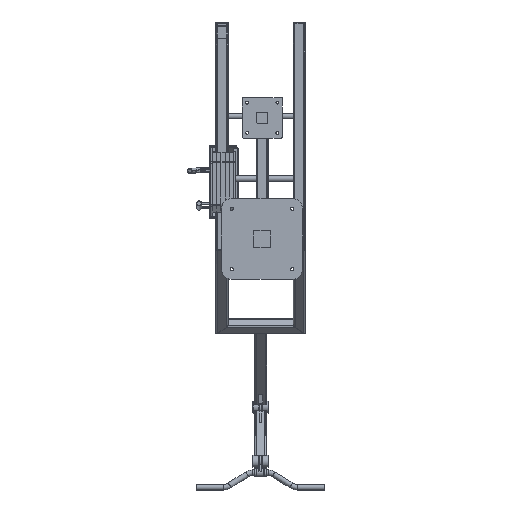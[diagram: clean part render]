
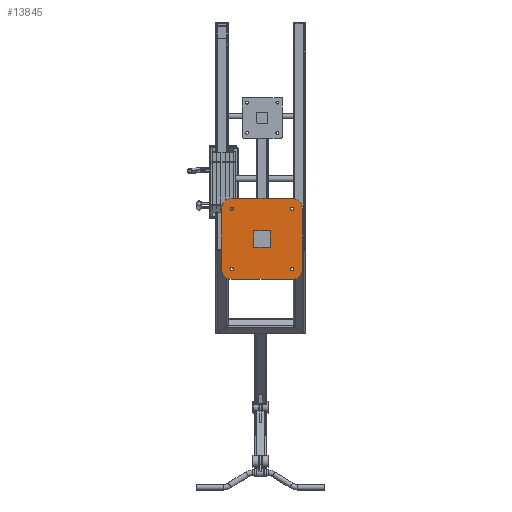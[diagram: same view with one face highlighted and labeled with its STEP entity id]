
A CAD part, front view. The second image highlights one B-rep face of the part: STEP entity #13845.
In plain terms, the highlighted planar face has unit normal (0, -1, 0).
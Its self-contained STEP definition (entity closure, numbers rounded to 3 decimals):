
#171=FACE_BOUND('',#4982,.T.);
#172=FACE_BOUND('',#4983,.T.);
#173=FACE_BOUND('',#4984,.T.);
#174=FACE_BOUND('',#4985,.T.);
#175=FACE_BOUND('',#4986,.T.);
#601=PLANE('',#15073);
#1432=LINE('',#22435,#2701);
#1436=LINE('',#22442,#2705);
#1439=LINE('',#22448,#2708);
#1441=LINE('',#22453,#2710);
#1444=LINE('',#22467,#2713);
#1445=LINE('',#22469,#2714);
#1446=LINE('',#22471,#2715);
#1447=LINE('',#22472,#2716);
#2701=VECTOR('',#17897,300.);
#2705=VECTOR('',#17903,300.);
#2708=VECTOR('',#17908,300.);
#2710=VECTOR('',#17912,300.);
#2713=VECTOR('',#17929,80.);
#2714=VECTOR('',#17930,80.);
#2715=VECTOR('',#17931,80.);
#2716=VECTOR('',#17932,80.);
#4092=FACE_OUTER_BOUND('',#4981,.T.);
#4981=EDGE_LOOP('',(#11303,#11304,#11305,#11306,#11307,#11308,#11309,#11310));
#4982=EDGE_LOOP('',(#11311));
#4983=EDGE_LOOP('',(#11312));
#4984=EDGE_LOOP('',(#11313,#11314,#11315,#11316));
#4985=EDGE_LOOP('',(#11317));
#4986=EDGE_LOOP('',(#11318));
#5752=CIRCLE('',#15074,50.);
#5753=CIRCLE('',#15075,50.);
#5754=CIRCLE('',#15076,50.);
#5755=CIRCLE('',#15077,50.);
#5756=CIRCLE('',#15078,8.);
#5757=CIRCLE('',#15079,8.);
#5758=CIRCLE('',#15080,8.);
#5759=CIRCLE('',#15081,8.);
#6741=VERTEX_POINT('',#22433);
#6742=VERTEX_POINT('',#22434);
#6743=VERTEX_POINT('',#22439);
#6744=VERTEX_POINT('',#22441);
#6745=VERTEX_POINT('',#22445);
#6746=VERTEX_POINT('',#22447);
#6747=VERTEX_POINT('',#22451);
#6748=VERTEX_POINT('',#22452);
#6749=VERTEX_POINT('',#22461);
#6750=VERTEX_POINT('',#22463);
#6751=VERTEX_POINT('',#22465);
#6752=VERTEX_POINT('',#22466);
#6753=VERTEX_POINT('',#22468);
#6754=VERTEX_POINT('',#22470);
#6755=VERTEX_POINT('',#22473);
#6756=VERTEX_POINT('',#22475);
#8355=EDGE_CURVE('',#6741,#6742,#1432,.T.);
#8359=EDGE_CURVE('',#6743,#6744,#1436,.T.);
#8362=EDGE_CURVE('',#6746,#6745,#1439,.T.);
#8364=EDGE_CURVE('',#6747,#6748,#1441,.T.);
#8367=EDGE_CURVE('',#6742,#6748,#5752,.T.);
#8368=EDGE_CURVE('',#6747,#6744,#5753,.T.);
#8369=EDGE_CURVE('',#6743,#6746,#5754,.T.);
#8370=EDGE_CURVE('',#6745,#6741,#5755,.T.);
#8371=EDGE_CURVE('',#6749,#6749,#5756,.T.);
#8372=EDGE_CURVE('',#6750,#6750,#5757,.T.);
#8373=EDGE_CURVE('',#6751,#6752,#1444,.T.);
#8374=EDGE_CURVE('',#6753,#6751,#1445,.T.);
#8375=EDGE_CURVE('',#6754,#6753,#1446,.T.);
#8376=EDGE_CURVE('',#6752,#6754,#1447,.T.);
#8377=EDGE_CURVE('',#6755,#6755,#5758,.T.);
#8378=EDGE_CURVE('',#6756,#6756,#5759,.T.);
#11303=ORIENTED_EDGE('',*,*,#8355,.T.);
#11304=ORIENTED_EDGE('',*,*,#8367,.T.);
#11305=ORIENTED_EDGE('',*,*,#8364,.F.);
#11306=ORIENTED_EDGE('',*,*,#8368,.T.);
#11307=ORIENTED_EDGE('',*,*,#8359,.F.);
#11308=ORIENTED_EDGE('',*,*,#8369,.T.);
#11309=ORIENTED_EDGE('',*,*,#8362,.T.);
#11310=ORIENTED_EDGE('',*,*,#8370,.T.);
#11311=ORIENTED_EDGE('',*,*,#8371,.F.);
#11312=ORIENTED_EDGE('',*,*,#8372,.F.);
#11313=ORIENTED_EDGE('',*,*,#8373,.F.);
#11314=ORIENTED_EDGE('',*,*,#8374,.F.);
#11315=ORIENTED_EDGE('',*,*,#8375,.F.);
#11316=ORIENTED_EDGE('',*,*,#8376,.F.);
#11317=ORIENTED_EDGE('',*,*,#8377,.F.);
#11318=ORIENTED_EDGE('',*,*,#8378,.F.);
#13845=ADVANCED_FACE('',(#4092,#171,#172,#173,#174,#175),#601,.T.);
#15073=AXIS2_PLACEMENT_3D('',#22456,#17915,#17916);
#15074=AXIS2_PLACEMENT_3D('',#22457,#17917,#17918);
#15075=AXIS2_PLACEMENT_3D('',#22458,#17919,#17920);
#15076=AXIS2_PLACEMENT_3D('',#22459,#17921,#17922);
#15077=AXIS2_PLACEMENT_3D('',#22460,#17923,#17924);
#15078=AXIS2_PLACEMENT_3D('',#22462,#17925,#17926);
#15079=AXIS2_PLACEMENT_3D('',#22464,#17927,#17928);
#15080=AXIS2_PLACEMENT_3D('',#22474,#17933,#17934);
#15081=AXIS2_PLACEMENT_3D('',#22476,#17935,#17936);
#17897=DIRECTION('',(0.,0.,1.));
#17903=DIRECTION('',(0.,0.,1.));
#17908=DIRECTION('',(1.,0.,0.));
#17912=DIRECTION('',(1.,0.,0.));
#17915=DIRECTION('center_axis',(0.,-1.,0.));
#17916=DIRECTION('ref_axis',(0.,0.,
1.));
#17917=DIRECTION('center_axis',(0.,-1.,0.));
#17918=DIRECTION('ref_axis',(1.,0.,0.));
#17919=DIRECTION('center_axis',(0.,-1.,0.));
#17920=DIRECTION('ref_axis',(0.,0.,
1.));
#17921=DIRECTION('center_axis',(0.,-1.,0.));
#17922=DIRECTION('ref_axis',(-1.,0.,0.));
#17923=DIRECTION('center_axis',(0.,-1.,0.));
#17924=DIRECTION('ref_axis',(0.,0.,
-1.));
#17925=DIRECTION('center_axis',(0.,-1.,0.));
#17926=DIRECTION('ref_axis',(-1.,0.,0.));
#17927=DIRECTION('center_axis',(0.,-1.,0.));
#17928=DIRECTION('ref_axis',(-1.,0.,0.));
#17929=DIRECTION('',(0.,0.,-1.));
#17930=DIRECTION('',(-1.,0.,0.));
#17931=DIRECTION('',(0.,0.,1.));
#17932=DIRECTION('',(1.,0.,0.));
#17933=DIRECTION('center_axis',(0.,-1.,0.));
#17934=DIRECTION('ref_axis',(-1.,0.,0.));
#17935=DIRECTION('center_axis',(0.,-1.,0.));
#17936=DIRECTION('ref_axis',(-1.,0.,0.));
#22433=CARTESIAN_POINT('',(-386.039,-805.619,-726.526));
#22434=CARTESIAN_POINT('',(-386.039,-805.619,-426.526));
#22435=CARTESIAN_POINT('',(-386.039,-805.619,-726.526));
#22439=CARTESIAN_POINT('',(-786.039,-805.619,-726.526));
#22441=CARTESIAN_POINT('',(-786.039,-805.619,-426.526));
#22442=CARTESIAN_POINT('',(-786.039,-805.619,-726.526));
#22445=CARTESIAN_POINT('',(-436.039,-805.619,-776.526));
#22447=CARTESIAN_POINT('',(-736.039,-805.619,-776.526));
#22448=CARTESIAN_POINT('',(-736.039,-805.619,-776.526));
#22451=CARTESIAN_POINT('',(-736.039,-805.619,-376.526));
#22452=CARTESIAN_POINT('',(-436.039,-805.619,-376.526));
#22453=CARTESIAN_POINT('',(-736.039,-805.619,-376.526));
#22456=CARTESIAN_POINT('Origin',(-382.039,-805.619,-780.526));
#22457=CARTESIAN_POINT('Origin',(-436.039,-805.619,-426.526));
#22458=CARTESIAN_POINT('Origin',(-736.039,-805.619,-426.526));
#22459=CARTESIAN_POINT('Origin',(-736.039,-805.619,-726.526));
#22460=CARTESIAN_POINT('Origin',(-436.039,-805.619,-726.526));
#22461=CARTESIAN_POINT('',(-728.039,-805.619,-426.526));
#22462=CARTESIAN_POINT('Origin',(-736.039,-805.619,-426.526));
#22463=CARTESIAN_POINT('',(-428.039,-805.619,-726.526));
#22464=CARTESIAN_POINT('Origin',(-436.039,-805.619,-726.526));
#22465=CARTESIAN_POINT('',(-626.039,-805.619,-536.526));
#22466=CARTESIAN_POINT('',(-626.039,-805.619,-616.526));
#22467=CARTESIAN_POINT('',(-626.039,-805.619,-536.526));
#22468=CARTESIAN_POINT('',(-546.039,-805.619,-536.526));
#22469=CARTESIAN_POINT('',(-546.039,-805.619,-536.526));
#22470=CARTESIAN_POINT('',(-546.039,-805.619,-616.526));
#22471=CARTESIAN_POINT('',(-546.039,-805.619,-616.526));
#22472=CARTESIAN_POINT('',(-626.039,-805.619,-616.526));
#22473=CARTESIAN_POINT('',(-428.039,-805.619,-426.526));
#22474=CARTESIAN_POINT('Origin',(-436.039,-805.619,-426.526));
#22475=CARTESIAN_POINT('',(-728.039,-805.619,-726.526));
#22476=CARTESIAN_POINT('Origin',(-736.039,-805.619,-726.526));
